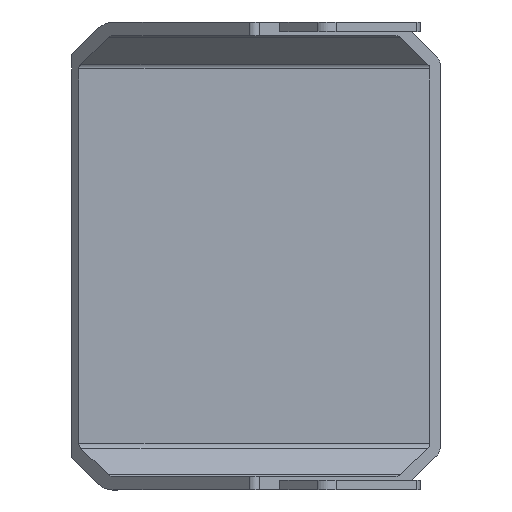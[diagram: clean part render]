
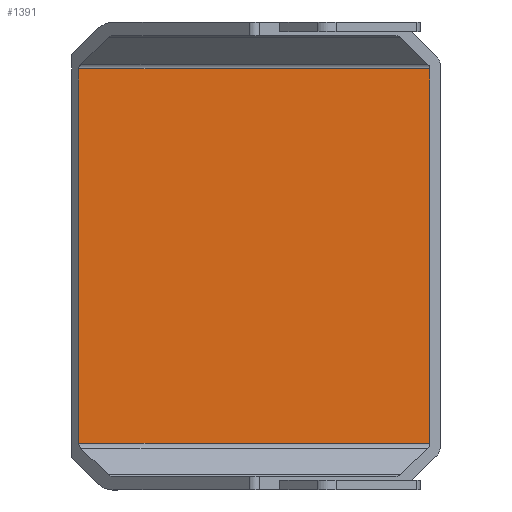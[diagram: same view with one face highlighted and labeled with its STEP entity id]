
A CAD part, top view. The second image highlights one B-rep face of the part: STEP entity #1391.
In plain terms, the highlighted planar face has unit normal (0, 0, 1).
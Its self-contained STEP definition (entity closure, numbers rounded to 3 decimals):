
#432=DIRECTION('',(0.,1.,0.));
#433=VECTOR('',#432,56.067);
#434=CARTESIAN_POINT('',(-26.918,-28.034,0.));
#435=LINE('',#434,#433);
#436=DIRECTION('',(0.,1.,0.));
#437=VECTOR('',#436,56.067);
#438=CARTESIAN_POINT('',(25.642,-28.034,0.));
#439=LINE('',#438,#437);
#1068=DIRECTION('',(-1.,0.,0.));
#1069=VECTOR('',#1068,52.56);
#1070=CARTESIAN_POINT('',(25.642,-28.034,0.));
#1071=LINE('',#1070,#1069);
#1159=DIRECTION('',(-1.,0.,0.));
#1160=VECTOR('',#1159,52.56);
#1161=CARTESIAN_POINT('',(25.642,28.034,0.));
#1162=LINE('',#1161,#1160);
#1208=CARTESIAN_POINT('',(-26.918,-28.034,0.));
#1209=CARTESIAN_POINT('',(-26.918,28.034,0.));
#1210=VERTEX_POINT('',#1208);
#1211=VERTEX_POINT('',#1209);
#1212=CARTESIAN_POINT('',(25.642,-28.034,0.));
#1213=CARTESIAN_POINT('',(25.642,28.034,0.));
#1214=VERTEX_POINT('',#1212);
#1215=VERTEX_POINT('',#1213);
#1376=CARTESIAN_POINT('',(0.,0.,0.));
#1377=DIRECTION('',(0.,0.,1.));
#1378=DIRECTION('',(1.,0.,0.));
#1379=AXIS2_PLACEMENT_3D('',#1376,#1377,#1378);
#1380=PLANE('',#1379);
#1382=ORIENTED_EDGE('',*,*,#1381,.T.);
#1384=ORIENTED_EDGE('',*,*,#1383,.F.);
#1386=ORIENTED_EDGE('',*,*,#1385,.F.);
#1388=ORIENTED_EDGE('',*,*,#1387,.T.);
#1389=EDGE_LOOP('',(#1382,#1384,#1386,#1388));
#1390=FACE_OUTER_BOUND('',#1389,.F.);
#1381=EDGE_CURVE('',#1210,#1211,#435,.T.);
#1383=EDGE_CURVE('',#1215,#1211,#1162,.T.);
#1385=EDGE_CURVE('',#1214,#1215,#439,.T.);
#1387=EDGE_CURVE('',#1214,#1210,#1071,.T.);
#1391=ADVANCED_FACE('',(#1390),#1380,.T.);
